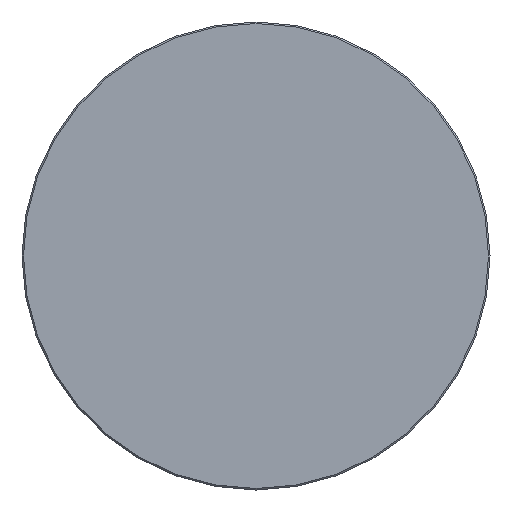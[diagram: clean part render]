
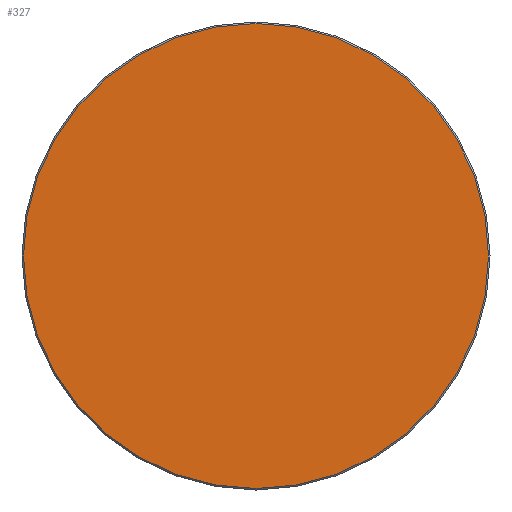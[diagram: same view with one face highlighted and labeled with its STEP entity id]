
A CAD part, left-side view. The second image highlights one B-rep face of the part: STEP entity #327.
In plain terms, the highlighted planar face has unit normal (-1, 0, 0).
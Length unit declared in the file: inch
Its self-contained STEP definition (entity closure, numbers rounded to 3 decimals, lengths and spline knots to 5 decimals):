
#13 = CARTESIAN_POINT ( 'NONE',  ( 0., 0., 0. ) ) ;
#22 = DIRECTION ( 'NONE',  ( -1., 0., 0. ) ) ;
#29 = AXIS2_PLACEMENT_3D ( 'NONE', #13, #344, #160 ) ;
#54 = AXIS2_PLACEMENT_3D ( 'NONE', #350, #22, #369 ) ;
#98 = CIRCLE ( 'NONE', #54, 0.621 ) ;
#101 = VERTEX_POINT ( 'NONE', #151 ) ;
#103 = ORIENTED_EDGE ( 'NONE', *, *, #351, .T. ) ;
#129 = DIRECTION ( 'NONE',  ( 0., -1., 0. ) ) ;
#146 = ORIENTED_EDGE ( 'NONE', *, *, #233, .T. ) ;
#151 = CARTESIAN_POINT ( 'NONE',  ( 0., 0.621, 0. ) ) ;
#160 = DIRECTION ( 'NONE',  ( 0., -1., 0. ) ) ;
#165 = DIRECTION ( 'NONE',  ( -1., 0., 0. ) ) ;
#173 = EDGE_LOOP ( 'NONE', ( #146, #103 ) ) ;
#176 = VERTEX_POINT ( 'NONE', #242 ) ;
#208 = AXIS2_PLACEMENT_3D ( 'NONE', #348, #165, #129 ) ;
#233 = EDGE_CURVE ( 'NONE', #101, #176, #372, .T. ) ;
#242 = CARTESIAN_POINT ( 'NONE',  ( 0., -0.621, 0. ) ) ;
#251 = FACE_OUTER_BOUND ( 'NONE', #173, .T. ) ;
#319 = PLANE ( 'NONE',  #208 ) ;
#327 = ADVANCED_FACE ( 'NONE', ( #251 ), #319, .T. ) ;
#344 = DIRECTION ( 'NONE',  ( -1., 0., 0. ) ) ;
#348 = CARTESIAN_POINT ( 'NONE',  ( 0., 0., 0. ) ) ;
#350 = CARTESIAN_POINT ( 'NONE',  ( 0., 0., 0. ) ) ;
#351 = EDGE_CURVE ( 'NONE', #176, #101, #98, .T. ) ;
#369 = DIRECTION ( 'NONE',  ( 0., -1., 0. ) ) ;
#372 = CIRCLE ( 'NONE', #29, 0.621 ) ;
